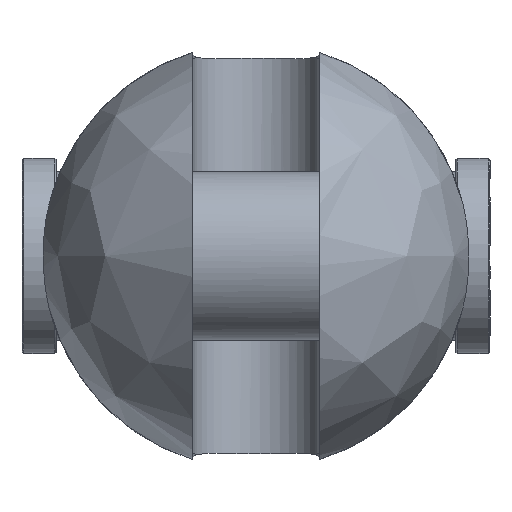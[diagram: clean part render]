
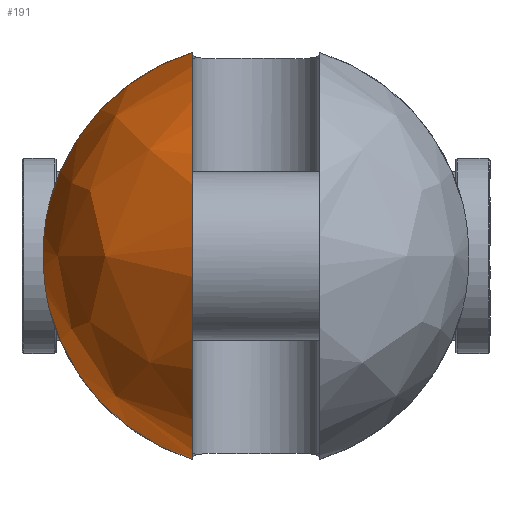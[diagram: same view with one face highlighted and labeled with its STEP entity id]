
A CAD part, left-side view. The second image highlights one B-rep face of the part: STEP entity #191.
In plain terms, the highlighted free-form (B-spline) face has degree [2, 2] with [9, 5] control points.
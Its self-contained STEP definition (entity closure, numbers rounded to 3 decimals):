
#191=ADVANCED_FACE('',(#331),#2407,.T.);
#331=FACE_OUTER_BOUND('',#491,.T.);
#491=EDGE_LOOP('',(#1244,#1245,#1246,#1247));
#1244=ORIENTED_EDGE('',*,*,#1574,.T.);
#1245=ORIENTED_EDGE('',*,*,#1605,.F.);
#1246=ORIENTED_EDGE('',*,*,#1625,.T.);
#1247=ORIENTED_EDGE('',*,*,#1597,.F.);
#1574=EDGE_CURVE('',#2241,#2240,#1974,.T.);
#1597=EDGE_CURVE('',#2241,#2257,#1986,.T.);
#1605=EDGE_CURVE('',#2264,#2240,#1987,.T.);
#1625=EDGE_CURVE('',#2264,#2257,#1782,.T.);
#1782=B_SPLINE_CURVE_WITH_KNOTS('',3,(#6204,#6205,#6206,#6207,#6208,#6209,
#6210,#6211,#6212,#6213,#6214,#6215,#6216,#6217),.UNSPECIFIED.,.F.,.F.,
(4,2,2,2,2,2,4),(0.,3.043,9.366,15.688,
22.011,28.334,31.377),.UNSPECIFIED.);
#1974=(
BOUNDED_CURVE()
B_SPLINE_CURVE(2,(#5894,#5895,#5896,#5897,#5898),.UNSPECIFIED.,.F.,.F.)
B_SPLINE_CURVE_WITH_KNOTS((3,2,3),(-185.906,-92.953,
0.),.UNSPECIFIED.)
CURVE()
GEOMETRIC_REPRESENTATION_ITEM()
RATIONAL_B_SPLINE_CURVE((1.,0.707,1.,0.707,1.))
REPRESENTATION_ITEM('')
);
#1986=(
BOUNDED_CURVE()
B_SPLINE_CURVE(2,(#6054,#6055,#6056),.UNSPECIFIED.,.F.,.F.)
B_SPLINE_CURVE_WITH_KNOTS((3,3),(0.,63.626),.UNSPECIFIED.)
CURVE()
GEOMETRIC_REPRESENTATION_ITEM()
RATIONAL_B_SPLINE_CURVE((1.,0.871,1.))
REPRESENTATION_ITEM('')
);
#1987=(
BOUNDED_CURVE()
B_SPLINE_CURVE(2,(#6111,#6112,#6113),.UNSPECIFIED.,.F.,.F.)
B_SPLINE_CURVE_WITH_KNOTS((3,3),(0.,63.626),.UNSPECIFIED.)
CURVE()
GEOMETRIC_REPRESENTATION_ITEM()
RATIONAL_B_SPLINE_CURVE((1.,0.871,1.))
REPRESENTATION_ITEM('')
);
#2240=VERTEX_POINT('',#5738);
#2241=VERTEX_POINT('',#5739);
#2257=VERTEX_POINT('',#5755);
#2264=VERTEX_POINT('',#5762);
#2407=(
BOUNDED_SURFACE()
B_SPLINE_SURFACE(2,2,((#5665,#5666,#5667,#5668,#5669),(#5670,#5671,#5672,
#5673,#5674),(#5675,#5676,#5677,#5678,#5679),(#5680,#5681,#5682,#5683,#5684),
(#5685,#5686,#5687,#5688,#5689),(#5690,#5691,#5692,#5693,#5694),(#5695,
#5696,#5697,#5698,#5699),(#5700,#5701,#5702,#5703,#5704),(#5705,#5706,#5707,
#5708,#5709)),.UNSPECIFIED.,.T.,.F.,.F.)
B_SPLINE_SURFACE_WITH_KNOTS((3,2,2,2,3),(3,2,3),(0.,97.389,194.779,
292.168,389.557),(0.,97.389,194.779),
 .UNSPECIFIED.)
GEOMETRIC_REPRESENTATION_ITEM()
RATIONAL_B_SPLINE_SURFACE(((1.,0.707,1.,0.707,1.),
(0.707,0.5,0.707,0.5,0.707),(1.,0.707,
1.,0.707,1.),(0.707,0.5,0.707,0.5,0.707),
(1.,0.707,1.,0.707,1.),(0.707,0.5,0.707,
0.5,0.707),(1.,0.707,1.,0.707,1.),(0.707,
0.5,0.707,0.5,0.707),(1.,0.707,1.,0.707,
1.)))
REPRESENTATION_ITEM('')
SURFACE()
);
#5665=CARTESIAN_POINT('',(-87.5,0.,0.));
#5666=CARTESIAN_POINT('',(-87.5,-62.,0.));
#5667=CARTESIAN_POINT('',(-25.5,-62.,0.));
#5668=CARTESIAN_POINT('',(36.5,-62.,0.));
#5669=CARTESIAN_POINT('',(36.5,0.,0.));
#5670=CARTESIAN_POINT('',(-87.5,0.,0.));
#5671=CARTESIAN_POINT('',(-87.5,-62.,-62.));
#5672=CARTESIAN_POINT('',(-25.5,-62.,-62.));
#5673=CARTESIAN_POINT('',(36.5,-62.,-62.));
#5674=CARTESIAN_POINT('',(36.5,0.,0.));
#5675=CARTESIAN_POINT('',(-87.5,0.,0.));
#5676=CARTESIAN_POINT('',(-87.5,0.,-62.));
#5677=CARTESIAN_POINT('',(-25.5,0.,-62.));
#5678=CARTESIAN_POINT('',(36.5,0.,-62.));
#5679=CARTESIAN_POINT('',(36.5,0.,0.));
#5680=CARTESIAN_POINT('',(-87.5,0.,0.));
#5681=CARTESIAN_POINT('',(-87.5,62.,-62.));
#5682=CARTESIAN_POINT('',(-25.5,62.,-62.));
#5683=CARTESIAN_POINT('',(36.5,62.,-62.));
#5684=CARTESIAN_POINT('',(36.5,0.,0.));
#5685=CARTESIAN_POINT('',(-87.5,0.,0.));
#5686=CARTESIAN_POINT('',(-87.5,62.,0.));
#5687=CARTESIAN_POINT('',(-25.5,62.,0.));
#5688=CARTESIAN_POINT('',(36.5,62.,0.));
#5689=CARTESIAN_POINT('',(36.5,0.,0.));
#5690=CARTESIAN_POINT('',(-87.5,0.,0.));
#5691=CARTESIAN_POINT('',(-87.5,62.,62.));
#5692=CARTESIAN_POINT('',(-25.5,62.,62.));
#5693=CARTESIAN_POINT('',(36.5,62.,62.));
#5694=CARTESIAN_POINT('',(36.5,0.,0.));
#5695=CARTESIAN_POINT('',(-87.5,0.,0.));
#5696=CARTESIAN_POINT('',(-87.5,0.,62.));
#5697=CARTESIAN_POINT('',(-25.5,0.,62.));
#5698=CARTESIAN_POINT('',(36.5,0.,62.));
#5699=CARTESIAN_POINT('',(36.5,0.,0.));
#5700=CARTESIAN_POINT('',(-87.5,0.,0.));
#5701=CARTESIAN_POINT('',(-87.5,-62.,62.));
#5702=CARTESIAN_POINT('',(-25.5,-62.,62.));
#5703=CARTESIAN_POINT('',(36.5,-62.,62.));
#5704=CARTESIAN_POINT('',(36.5,0.,0.));
#5705=CARTESIAN_POINT('',(-87.5,0.,0.));
#5706=CARTESIAN_POINT('',(-87.5,-62.,0.));
#5707=CARTESIAN_POINT('',(-25.5,-62.,0.));
#5708=CARTESIAN_POINT('',(36.5,-62.,0.));
#5709=CARTESIAN_POINT('',(36.5,0.,0.));
#5738=CARTESIAN_POINT('',(-25.5,18.5,59.176));
#5739=CARTESIAN_POINT('',(-25.5,18.5,-59.176));
#5755=CARTESIAN_POINT('',(-25.5,60.2,-14.832));
#5762=CARTESIAN_POINT('',(-25.5,60.2,14.832));
#5894=CARTESIAN_POINT('',(-25.5,18.5,-59.176));
#5895=CARTESIAN_POINT('',(-84.676,18.5,-59.176));
#5896=CARTESIAN_POINT('',(-84.676,18.5,0.));
#5897=CARTESIAN_POINT('',(-84.676,18.5,59.176));
#5898=CARTESIAN_POINT('',(-25.5,18.5,59.176));
#6054=CARTESIAN_POINT('',(-25.5,18.5,-59.176));
#6055=CARTESIAN_POINT('',(-25.5,51.842,-48.752));
#6056=CARTESIAN_POINT('',(-25.5,60.2,-14.832));
#6111=CARTESIAN_POINT('',(-25.5,60.2,14.832));
#6112=CARTESIAN_POINT('',(-25.5,51.842,48.752));
#6113=CARTESIAN_POINT('',(-25.5,18.5,59.176));
#6204=CARTESIAN_POINT('',(-25.5,60.2,14.832));
#6205=CARTESIAN_POINT('',(-26.004,60.413,13.965));
#6206=CARTESIAN_POINT('',(-26.467,60.608,13.067));
#6207=CARTESIAN_POINT('',(-27.748,61.146,10.232));
#6208=CARTESIAN_POINT('',(-28.412,61.421,8.211));
#6209=CARTESIAN_POINT('',(-29.288,61.784,4.108));
#6210=CARTESIAN_POINT('',(-29.5,61.871,2.026));
#6211=CARTESIAN_POINT('',(-29.5,61.871,-2.026));
#6212=CARTESIAN_POINT('',(-29.288,61.784,-4.108));
#6213=CARTESIAN_POINT('',(-28.412,61.421,-8.211));
#6214=CARTESIAN_POINT('',(-27.748,61.146,-10.232));
#6215=CARTESIAN_POINT('',(-26.467,60.608,-13.067));
#6216=CARTESIAN_POINT('',(-26.004,60.413,-13.965));
#6217=CARTESIAN_POINT('',(-25.5,60.2,-14.832));
